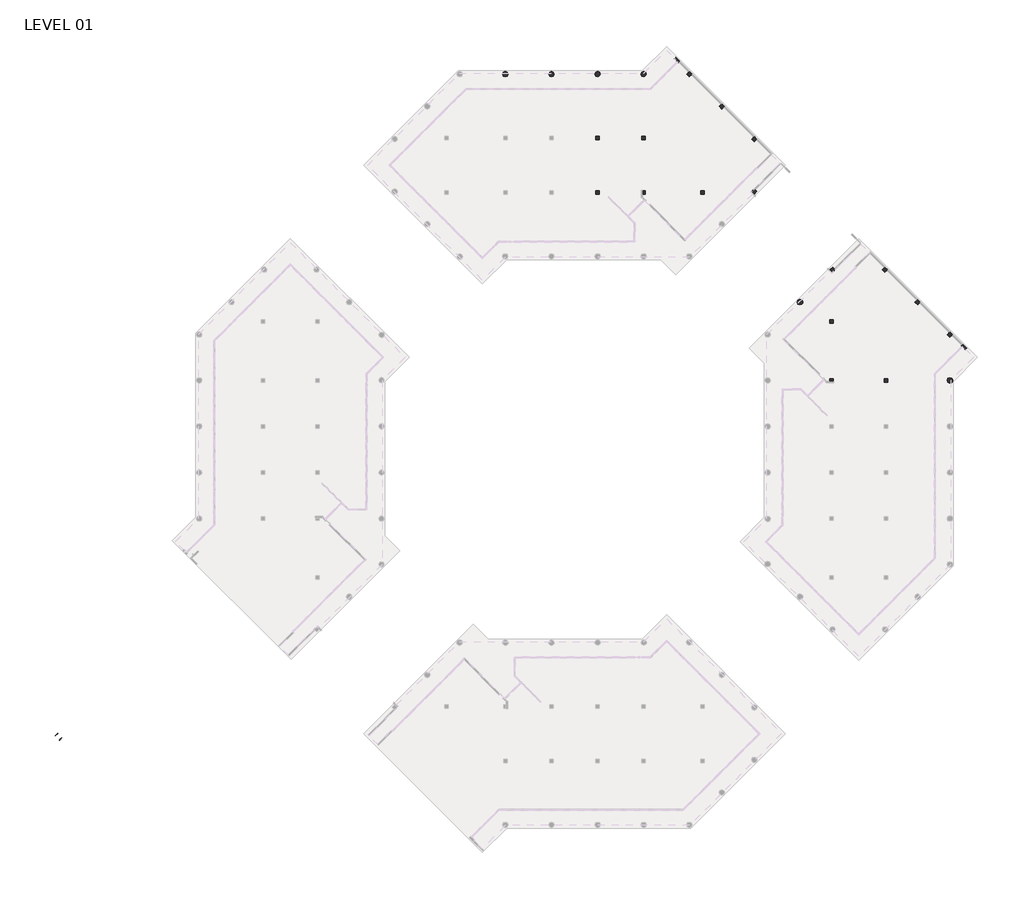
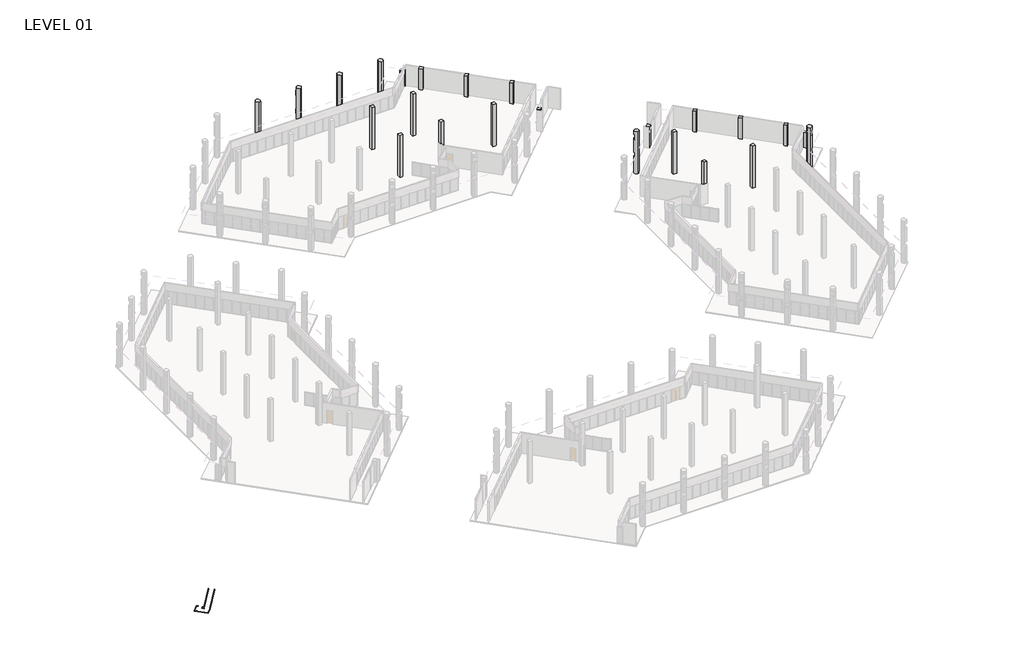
# One storey, part 24 of 24: 24 columns, 2 railings.
"""IFC4 building model written with IfcOpenShell, lengths in millimetres."""

from ifc_helpers import new_model, si_unit, frame, origin, origin_with_axes, place, context, project, spatial, polyline, circle_curve, outline, extrude, faceted_brep, transform, mapped, element, save
from ifc_brep_helpers import plane_surface, cylinder_surface, advanced_brep
from components import column_c64340cb, column_f8a5f9a6, railing_1_d00421eb, railing_1_545f83d4

model = new_model("IFC4")

# Units and contexts
model_context = context("Model", 3, world=origin())
ifc_project = project(units=[si_unit("LENGTHUNIT", "METRE", prefix="MILLI")], contexts=[model_context])

# Site, building, storey
site = spatial("IfcSite", under=ifc_project)
building = spatial("IfcBuilding", under=site)
storey = spatial("IfcBuildingStorey", under=building, Name="LEVEL 01", Elevation=0.0)

# Columns
placement = place(None, origin())
element("IfcColumn", 1, ObjectType="Rectangular Column : 1'2\"x3'-0\"", at=placement, inside=storey, context=model_context, shape_type="Brep", body=[
    faceted_brep([(94455.4916224, 74004.6765846, 0.0), (93808.9131817, 74651.2550253, 0.0), (94060.3603531, 74902.7021967, 0.0), (94706.9387938, 74256.123756, 0.0), (94455.4916224, 74004.6765846, 3048.0), (94013.9124677, 74446.2557393, 3048.0), (93870.2283698, 74589.9398372, 3048.0), (93808.9131817, 74651.2550253, 3048.0), (94706.9387938, 74256.123756, 3048.0), (94060.3603531, 74902.7021967, 3048.0)], [[[0, 1, 2, 3]], [[1, 0, 4, 5, 6, 7]], [[0, 3, 8, 4]], [[3, 2, 9, 8]], [[2, 1, 7, 9]], [[4, 8, 9, 7, 6, 5]]]),
])
element("IfcColumn", 2, ObjectType="Rectangular Column : 1'2\"x3'-0\"", at=placement, inside=storey, context=model_context, shape_type="Brep", body=[
    faceted_brep([(46959.2374368, 121500.9307702, 0.0), (46312.6589961, 122147.5092109, 0.0), (46564.1061675, 122398.9563823, 0.0), (47210.6846082, 121752.3779416, 0.0), (46959.2374368, 121500.9307702, 3048.0), (46897.9222487, 121562.2459583, 3048.0), (46754.2381508, 121705.9300562, 3048.0), (46312.6589961, 122147.5092109, 3048.0), (46564.1061675, 122398.9563823, 3048.0), (47210.6846082, 121752.3779416, 3048.0)], [[[0, 1, 2, 3]], [[1, 0, 4, 5, 6, 7]], [[2, 1, 7, 8]], [[3, 2, 8, 9]], [[0, 3, 9, 4]], [[8, 7, 6, 5, 4, 9]]]),
])
element("IfcColumn", 3, ObjectType="Rectangular Column : 24\" x 24\"", at=placement, inside=storey, context=model_context, shape_type="SweptSolid", body=[
    extrude(outline(polyline([(69252.7675885, 8280.4), (69252.7675885, 0.0), (68801.9175885, 0.0), (68801.9175885, 4013.2), (68643.1675885, 4013.2), (68643.1675885, 8280.4), (69252.7675885, 8280.4)])), frame((72027.0347164, 0.0, 0.0), z_axis=(1.0, 0.0, 0.0), x_axis=(0.0, 1.0, 0.0)), (0.0, 0.0, 1.0), 609.6),
])
element("IfcColumn", 4, ObjectType="Rectangular Column : 24\" x 24\"", at=placement, inside=storey, context=model_context, shape_type="SweptSolid", body=[
    extrude(outline(polyline([(91503.2324226, 76525.8834906), (91934.2847164, 76956.9357844), (92365.3370102, 76525.8834906), (91934.2847164, 76094.8311968), (91503.2324226, 76525.8834906)])), origin_with_axes(), (0.0, 0.0, 1.0), 4140.2),
])
element("IfcColumn", 5, ObjectType="Rectangular Column : 24\" x 24\"", at=placement, inside=storey, context=model_context, shape_type="SweptSolid", body=[
    extrude(outline(polyline([(86145.0153736, 81884.1005396), (86576.0676674, 82315.1528334), (87007.1199612, 81884.1005396), (86576.0676674, 81453.0482457), (86145.0153736, 81884.1005396)])), origin_with_axes(), (0.0, 0.0, 1.0), 4140.2),
])
element("IfcColumn", 6, ObjectType="Rectangular Column : 24\" x 24\"", at=placement, inside=storey, context=model_context, shape_type="Brep", body=[
    faceted_brep([(81188.0926674, 86841.0232457, 0.0), (80757.0403736, 87272.0755396, 0.0), (81080.329594, 87595.3647599, 0.0), (81188.0926674, 87703.1278334, 0.0), (81619.1449612, 87272.0755396, 0.0), (81188.0926674, 86841.0232457, 4140.2), (80757.0403736, 87272.0755396, 4140.2), (81619.1449612, 87272.0755396, 4140.2), (81188.0926674, 87703.1278334, 4089.4), (81188.0926674, 87703.1278334, 4140.2)], [[[0, 1, 2, 3, 4]], [[1, 0, 5, 6]], [[0, 4, 7, 5]], [[4, 3, 8, 9, 7]], [[1, 6, 9, 8, 3, 2]], [[6, 5, 7, 9]]]),
])
element("IfcColumn", 7, ObjectType="Rectangular Column : 24\" x 24\"", at=placement, inside=storey, context=model_context, shape_type="SweptSolid", body=[
    extrude(outline(polyline([(72080.5744716, 87272.0755396), (72511.6267654, 87703.1278334), (72942.6790592, 87272.0755396), (72511.6267654, 86841.0232457), (72080.5744716, 87272.0755396)])), origin_with_axes(), (0.0, 0.0, 1.0), 4140.2),
])
element("IfcColumn", 8, ObjectType="Rectangular Column : 24\" x 24\"", at=placement, inside=storey, context=model_context, shape_type="SweptSolid", body=[
    extrude(outline(polyline([(0.0, 41560.75), (8280.4, 41560.75), (8280.4, 40951.15), (4013.2, 40951.15), (4013.2, 41109.9), (0.0, 41109.9), (0.0, 41560.75)])), frame((0.0, 99719.0523049, 0.0), z_axis=(0.0, 1.0, 0.0), x_axis=(0.0, 0.0, 1.0)), (0.0, 0.0, 1.0), 609.6),
])
element("IfcColumn", 9, ObjectType="Rectangular Column : 24\" x 24\"", at=placement, inside=storey, context=model_context, shape_type="SweptSolid", body=[
    extrude(outline(polyline([(48833.8659021, 119195.2500111), (48402.8136083, 119626.3023049), (48833.8659021, 120057.3545987), (49264.9181959, 119626.3023049), (48833.8659021, 119195.2500111)])), origin_with_axes(), (0.0, 0.0, 1.0), 4140.2),
])
element("IfcColumn", 10, ObjectType="Rectangular Column : 24\" x 24\"", at=placement, inside=storey, context=model_context, shape_type="SweptSolid", body=[
    extrude(outline(polyline([(54192.082951, 113837.0329621), (53761.0306572, 114268.085256), (54192.082951, 114699.1375498), (54623.1352448, 114268.085256), (54192.082951, 113837.0329621)])), origin_with_axes(), (0.0, 0.0, 1.0), 4140.2),
])
element("IfcColumn", 11, ObjectType="Rectangular Column : 24\" x 24\"", at=placement, inside=storey, context=model_context, shape_type="Brep", body=[
    faceted_brep([(59580.057951, 108449.0579621, 0.0), (59149.0056572, 108880.110256, 0.0), (59580.057951, 109311.1625498, 0.0), (60011.1102448, 108880.110256, 0.0), (59903.3471714, 108772.3471825, 0.0), (59580.057951, 108449.0579621, 4140.2), (59149.0056572, 108880.110256, 4140.2), (59580.057951, 109311.1625498, 4140.2), (60011.1102448, 108880.110256, 4140.2), (60011.1102448, 108880.110256, 4089.4)], [[[0, 1, 2, 3, 4]], [[1, 0, 5, 6]], [[2, 1, 6, 7]], [[3, 2, 7, 8, 9]], [[5, 0, 4, 3, 9, 8]], [[6, 5, 8, 7]]]),
])
element("IfcColumn", 12, ObjectType="Rectangular Column : 24\" x 24\"", at=placement, inside=storey, context=model_context, shape_type="SweptSolid", body=[
    extrude(outline(polyline([(59580.057951, 99772.5920601), (59149.0056572, 100203.6443539), (59580.057951, 100634.6966477), (60011.1102448, 100203.6443539), (59580.057951, 99772.5920601)])), origin_with_axes(), (0.0, 0.0, 1.0), 4140.2),
])
column_shape = column_c64340cb(model_context)
element("IfcColumn", 13, ObjectType="Rectangular Column : 24\" x 24\"", at=placement, inside=storey, context=model_context, shape_type="MappedRepresentation", body=[
    mapped(column_shape, transform((33635.95, 109059.9023049, 0.0), x_axis=(-1.0, 0.0, 0.0), y_axis=(0.0, -1.0, 0.0), z_axis=(0.0, 0.0, 1.0))),
])
element("IfcColumn", 14, ObjectType="Rectangular Column : 24\" x 24\"", at=placement, inside=storey, context=model_context, shape_type="MappedRepresentation", body=[
    mapped(column_shape, transform((41255.95, 109059.9023049, 0.0), x_axis=(-1.0, 0.0, 0.0), y_axis=(0.0, -1.0, 0.0), z_axis=(0.0, 0.0, 1.0))),
])
element("IfcColumn", 15, ObjectType="Rectangular Column : 24\" x 24\"", at=placement, inside=storey, context=model_context, shape_type="MappedRepresentation", body=[
    mapped(column_shape, transform((51009.55, 100023.8523049, 0.0), x_axis=(-1.0, 0.0, 0.0), y_axis=(0.0, -1.0, 0.0), z_axis=(0.0, 0.0, 1.0))),
])
element("IfcColumn", 16, ObjectType="Rectangular Column : 24\" x 24\"", at=placement, inside=storey, context=model_context, shape_type="MappedRepresentation", body=[
    mapped(column_shape, transform((33635.95, 100023.8523049, 0.0), x_axis=(-1.0, 0.0, 0.0), y_axis=(0.0, -1.0, 0.0), z_axis=(0.0, 0.0, 1.0))),
])
column_2_shape = column_f8a5f9a6(model_context)
element("IfcColumn", 17, ObjectType="Rectangular Column : 24\" x 24\"", at=placement, inside=storey, context=model_context, shape_type="MappedRepresentation", body=[
    mapped(column_2_shape, transform((81367.8847164, 68947.9675885, 0.0), x_axis=(0.0, -1.0, 0.0), y_axis=(1.0, 0.0, 0.0), z_axis=(0.0, 0.0, 1.0))),
])
element("IfcColumn", 18, ObjectType="Rectangular Column : 24\" x 24\"", at=placement, inside=storey, context=model_context, shape_type="MappedRepresentation", body=[
    mapped(column_2_shape, transform((72331.8347164, 78701.5675885, 0.0), x_axis=(0.0, -1.0, 0.0), y_axis=(1.0, 0.0, 0.0), z_axis=(0.0, 0.0, 1.0))),
])
element("IfcColumn", 19, ObjectType="Round Column : 36\" Diameter", at=placement, inside=storey, context=model_context, shape_type="AdvancedBrep", body=[
    advanced_brep(
    [(91934.2847164, 69405.1675885, 0.0), (91934.2847164, 68490.7675885, 0.0), (91477.0847164, 68947.9675885, 0.0), (91934.2847164, 69405.1675885, 8280.4), (91934.2847164, 68490.7675885, 8280.4), (92391.4847164, 68947.9675885, 3225.8), (92086.6847164, 68516.9152947, 3225.8), (92086.6847164, 68516.9152947, 4140.2), (92391.4847164, 68947.9675885, 4140.2), (92332.4465602, 69172.6873833, 4140.2), (92332.4465602, 69172.6873833, 3225.8), (92086.6847164, 68516.9152947, 6731.0), (92086.6847164, 68516.9152947, 7721.6), (92391.4847164, 68947.9675885, 7721.6), (92332.4465602, 69172.6873833, 7721.6), (92332.4465602, 69172.6873833, 6731.0), (92391.4847164, 68947.9675885, 6731.0), (91477.0847164, 68947.9675885, 8280.4), (92086.6847164, 68926.9255396, 3225.8), (92086.6847164, 68926.9255396, 4140.2), (92086.6847164, 68926.9255396, 6731.0), (92086.6847164, 68926.9255396, 7721.6)],
    [
        (0, 1, circle_curve(frame((91934.2847164, 68947.9675885, 0.0), z_axis=(0.0, 0.0, -1.0), x_axis=(0.0, -1.0, 0.0)), 457.2)),
        (1, 2, circle_curve(frame((91934.2847164, 68947.9675885, 0.0), z_axis=(0.0, 0.0, -1.0), x_axis=(0.0, -1.0, 0.0)), 457.2)),
        (2, 0, circle_curve(frame((91934.2847164, 68947.9675885, 0.0), z_axis=(0.0, 0.0, -1.0), x_axis=(0.0, -1.0, 0.0)), 457.2)),
        (0, 3),
        (3, 4, circle_curve(frame((91934.2847164, 68947.9675885, 8280.4), z_axis=(0.0, 0.0, -1.0), x_axis=(0.0, -1.0, 0.0)), 457.2)),
        (4, 1),
        (5, 6, circle_curve(frame((91934.2847164, 68947.9675885, 3225.8), z_axis=(0.0, 0.0, -1.0), x_axis=(0.0, -1.0, 0.0)), 457.2)),
        (6, 7),
        (7, 8, circle_curve(frame((91934.2847164, 68947.9675885, 4140.2), z_axis=(0.0, 0.0, 1.0), x_axis=(0.0, -1.0, 0.0)), 457.2)),
        (8, 9, circle_curve(frame((91934.2847164, 68947.9675885, 4140.2), z_axis=(0.0, 0.0, 1.0), x_axis=(0.0, -1.0, 0.0)), 457.2)),
        (9, 10),
        (10, 5, circle_curve(frame((91934.2847164, 68947.9675885, 3225.8), z_axis=(0.0, 0.0, -1.0), x_axis=(0.0, -1.0, 0.0)), 457.2)),
        (11, 12),
        (12, 13, circle_curve(frame((91934.2847164, 68947.9675885, 7721.6), z_axis=(0.0, 0.0, 1.0), x_axis=(0.0, -1.0, 0.0)), 457.2)),
        (13, 14, circle_curve(frame((91934.2847164, 68947.9675885, 7721.6), z_axis=(0.0, 0.0, 1.0), x_axis=(0.0, -1.0, 0.0)), 457.2)),
        (14, 15),
        (15, 16, circle_curve(frame((91934.2847164, 68947.9675885, 6731.0), z_axis=(0.0, 0.0, -1.0), x_axis=(0.0, -1.0, 0.0)), 457.2)),
        (16, 11, circle_curve(frame((91934.2847164, 68947.9675885, 6731.0), z_axis=(0.0, 0.0, -1.0), x_axis=(0.0, -1.0, 0.0)), 457.2)),
        (2, 17),
        (17, 3, circle_curve(frame((91934.2847164, 68947.9675885, 8280.4), z_axis=(0.0, 0.0, -1.0), x_axis=(0.0, -1.0, 0.0)), 457.2)),
        (4, 17, circle_curve(frame((91934.2847164, 68947.9675885, 8280.4), z_axis=(0.0, 0.0, -1.0), x_axis=(0.0, -1.0, 0.0)), 457.2)),
        (18, 19),
        (19, 7),
        (6, 18),
        (10, 18),
        (19, 9),
        (20, 21),
        (21, 12),
        (11, 20),
        (15, 20),
        (21, 14),
    ],
    [
        plane_surface(frame((91934.2847164, 68490.7675885, 0.0), z_axis=(0.0, 0.0, -1.0), x_axis=(1.0, 0.0, 0.0))),
        cylinder_surface(frame((91934.2847164, 68947.9675885, 0.0), z_axis=(0.0, 0.0, 1.0), x_axis=(0.0, -1.0, 0.0)), 457.2),
        plane_surface(frame((91934.2847164, 68490.7675885, 8280.4), z_axis=(0.0, 0.0, 1.0), x_axis=(-1.0, 0.0, 0.0))),
        plane_surface(frame((92086.6847164, 38320.6732457, 3225.8), z_axis=(1.0, 0.0, 0.0), x_axis=(0.0, -1.0, 0.0))),
        plane_surface(frame((92391.4847164, 38383.7993926, 3225.8), z_axis=(0.0, 0.0, 1.0), x_axis=(-1.0, 0.0, 0.0))),
        plane_surface(frame((92391.4847164, 68863.7993926, 4140.2), z_axis=(0.0, 0.0, -1.0), x_axis=(-1.0, 0.0, 0.0))),
        plane_surface(frame((92175.9585695, 69016.1993926, 3225.8), z_axis=(0.7071067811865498, -0.7071067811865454, 0.0), x_axis=(-0.7071067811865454, -0.7071067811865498, 0.0))),
        plane_surface(frame((92086.6847164, 38320.6732457, 6731.0), z_axis=(1.0, 0.0, 0.0), x_axis=(0.0, -1.0, 0.0))),
        plane_surface(frame((92391.4847164, 38383.7993926, 6731.0), z_axis=(0.0, 0.0, 1.0), x_axis=(-1.0, 0.0, 0.0))),
        plane_surface(frame((92391.4847164, 68863.7993926, 7721.6), z_axis=(0.0, 0.0, -1.0), x_axis=(-1.0, 0.0, 0.0))),
        plane_surface(frame((92175.9585695, 69016.1993926, 6731.0), z_axis=(0.7071067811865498, -0.7071067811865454, 0.0), x_axis=(-0.7071067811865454, -0.7071067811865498, 0.0))),
    ],
    [
        (0, [[1, 2, 3]]),
        (1, [[-1, 4, 5, 6], [7, 8, 9, 10, 11, 12], [13, 14, 15, 16, 17, 18]]),
        (1, [[-3, 19, 20, -4]]),
        (1, [[-2, -6, 21, -19]]),
        (2, [[-5, -20, -21]]),
        (3, [[22, 23, -8, 24]]),
        (4, [[-7, -12, 25, -24]]),
        (5, [[-10, -9, -23, 26]]),
        (6, [[-22, -25, -11, -26]]),
        (7, [[27, 28, -13, 29]]),
        (8, [[-29, -18, -17, 30]]),
        (9, [[-28, 31, -15, -14]]),
        (10, [[-27, -30, -16, -31]]),
    ],
),
])
element("IfcColumn", 20, ObjectType="Round Column : 36\" Diameter", at=placement, inside=storey, context=model_context, shape_type="AdvancedBrep", body=[
    advanced_brep(
    [(67123.6517654, 82341.3005396, 0.0), (67123.6517654, 81426.9005396, 0.0), (66666.4517654, 81884.1005396, 0.0), (67123.6517654, 82341.3005396, 3225.8), (67320.6886919, 82296.663613, 3225.8), (67320.6886919, 82296.663613, 4140.2), (67123.6517654, 82341.3005396, 4140.2), (67123.6517654, 82341.3005396, 6731.0), (67320.6886919, 82296.663613, 6731.0), (67320.6886919, 82296.663613, 7721.6), (67123.6517654, 82341.3005396, 7721.6), (67123.6517654, 82341.3005396, 8280.4), (67123.6517654, 81426.9005396, 8280.4), (66666.4517654, 81884.1005396, 3225.8), (66800.362545, 82207.3897599, 3225.8), (66666.4517654, 81884.1005396, 8280.4), (66666.4517654, 81884.1005396, 7721.6), (66711.0886919, 81687.063613, 7721.6), (66711.0886919, 81687.063613, 6731.0), (66666.4517654, 81884.1005396, 6731.0), (66666.4517654, 81884.1005396, 4140.2), (66711.0886919, 81687.063613, 4140.2), (66711.0886919, 81687.063613, 3225.8), (66800.362545, 82207.3897599, 6731.0), (66800.362545, 82207.3897599, 7721.6), (66800.362545, 82207.3897599, 4140.2)],
    [
        (0, 1, circle_curve(frame((67123.6517654, 81884.1005396, 0.0), z_axis=(0.0, 0.0, -1.0), x_axis=(0.0, -1.0, 0.0)), 457.2)),
        (1, 2, circle_curve(frame((67123.6517654, 81884.1005396, 0.0), z_axis=(0.0, 0.0, -1.0), x_axis=(0.0, -1.0, 0.0)), 457.2)),
        (2, 0, circle_curve(frame((67123.6517654, 81884.1005396, 0.0), z_axis=(0.0, 0.0, -1.0), x_axis=(0.0, -1.0, 0.0)), 457.2)),
        (0, 3),
        (3, 4, circle_curve(frame((67123.6517654, 81884.1005396, 3225.8), z_axis=(0.0, 0.0, -1.0), x_axis=(0.0, -1.0, 0.0)), 457.2)),
        (4, 5),
        (5, 6, circle_curve(frame((67123.6517654, 81884.1005396, 4140.2), z_axis=(0.0, 0.0, 1.0), x_axis=(0.0, -1.0, 0.0)), 457.2)),
        (6, 7),
        (7, 8, circle_curve(frame((67123.6517654, 81884.1005396, 6731.0), z_axis=(0.0, 0.0, -1.0), x_axis=(0.0, -1.0, 0.0)), 457.2)),
        (8, 9),
        (9, 10, circle_curve(frame((67123.6517654, 81884.1005396, 7721.6), z_axis=(0.0, 0.0, 1.0), x_axis=(0.0, -1.0, 0.0)), 457.2)),
        (10, 11),
        (11, 12, circle_curve(frame((67123.6517654, 81884.1005396, 8280.4), z_axis=(0.0, 0.0, -1.0), x_axis=(0.0, -1.0, 0.0)), 457.2)),
        (12, 1),
        (2, 13),
        (13, 14, circle_curve(frame((67123.6517654, 81884.1005396, 3225.8), z_axis=(0.0, 0.0, -1.0), x_axis=(0.0, -1.0, 0.0)), 457.2)),
        (14, 3, circle_curve(frame((67123.6517654, 81884.1005396, 3225.8), z_axis=(0.0, 0.0, -1.0), x_axis=(0.0, -1.0, 0.0)), 457.2)),
        (12, 15, circle_curve(frame((67123.6517654, 81884.1005396, 8280.4), z_axis=(0.0, 0.0, -1.0), x_axis=(0.0, -1.0, 0.0)), 457.2)),
        (15, 16),
        (16, 17, circle_curve(frame((67123.6517654, 81884.1005396, 7721.6), z_axis=(0.0, 0.0, 1.0), x_axis=(0.0, -1.0, 0.0)), 457.2)),
        (17, 18),
        (18, 19, circle_curve(frame((67123.6517654, 81884.1005396, 6731.0), z_axis=(0.0, 0.0, -1.0), x_axis=(0.0, -1.0, 0.0)), 457.2)),
        (19, 20),
        (20, 21, circle_curve(frame((67123.6517654, 81884.1005396, 4140.2), z_axis=(0.0, 0.0, 1.0), x_axis=(0.0, -1.0, 0.0)), 457.2)),
        (21, 22),
        (22, 13, circle_curve(frame((67123.6517654, 81884.1005396, 3225.8), z_axis=(0.0, 0.0, -1.0), x_axis=(0.0, -1.0, 0.0)), 457.2)),
        (11, 15, circle_curve(frame((67123.6517654, 81884.1005396, 8280.4), z_axis=(0.0, 0.0, 1.0), x_axis=(0.0, -1.0, 0.0)), 457.2)),
        (8, 18),
        (17, 9),
        (7, 23, circle_curve(frame((67123.6517654, 81884.1005396, 6731.0), z_axis=(0.0, 0.0, 1.0), x_axis=(0.0, -1.0, 0.0)), 457.2)),
        (23, 19, circle_curve(frame((67123.6517654, 81884.1005396, 6731.0), z_axis=(0.0, 0.0, 1.0), x_axis=(0.0, -1.0, 0.0)), 457.2)),
        (16, 24, circle_curve(frame((67123.6517654, 81884.1005396, 7721.6), z_axis=(0.0, 0.0, -1.0), x_axis=(0.0, -1.0, 0.0)), 457.2)),
        (24, 10, circle_curve(frame((67123.6517654, 81884.1005396, 7721.6), z_axis=(0.0, 0.0, -1.0), x_axis=(0.0, -1.0, 0.0)), 457.2)),
        (4, 22),
        (21, 5),
        (20, 25, circle_curve(frame((67123.6517654, 81884.1005396, 4140.2), z_axis=(0.0, 0.0, -1.0), x_axis=(0.0, -1.0, 0.0)), 457.2)),
        (25, 6, circle_curve(frame((67123.6517654, 81884.1005396, 4140.2), z_axis=(0.0, 0.0, -1.0), x_axis=(0.0, -1.0, 0.0)), 457.2)),
    ],
    [
        plane_surface(frame((67123.6517654, 81426.9005396, 0.0), z_axis=(0.0, 0.0, -1.0), x_axis=(1.0, 0.0, 0.0))),
        cylinder_surface(frame((67123.6517654, 81884.1005396, 0.0), z_axis=(0.0, 0.0, 1.0), x_axis=(0.0, -1.0, 0.0)), 457.2),
        plane_surface(frame((67123.6517654, 81426.9005396, 8280.4), z_axis=(0.0, 0.0, 1.0), x_axis=(-1.0, 0.0, 0.0))),
        plane_surface(frame((76955.4438143, 91931.4187354, 6731.0), z_axis=(-0.7071067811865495, 0.7071067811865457, 0.0), x_axis=(0.7071067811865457, 0.7071067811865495, 0.0))),
        plane_surface(frame((76742.0966429, 92149.1238578, 6731.0), z_axis=(0.0, 0.0, 1.0000000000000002), x_axis=(0.7071067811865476, -0.7071067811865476, 0.0))),
        plane_surface(frame((61352.8716429, 76759.8988578, 7721.6), z_axis=(0.0, 0.0, -1.0000000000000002), x_axis=(0.7071067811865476, -0.7071067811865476, 0.0))),
        plane_surface(frame((65300.0829574, 80276.0578785, 3225.8), z_axis=(-0.7071067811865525, 0.7071067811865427, 0.0), x_axis=(0.7071067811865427, 0.7071067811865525, 0.0))),
        plane_surface(frame((71900.9693491, 87307.996564, 3225.8), z_axis=(0.0, 0.0, 1.0000000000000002), x_axis=(0.7071067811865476, -0.7071067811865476, 0.0))),
        plane_surface(frame((58963.5948066, 74370.6220215, 4140.2), z_axis=(0.0, 0.0, -1.0000000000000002), x_axis=(0.7071067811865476, -0.7071067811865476, 0.0))),
    ],
    [
        (0, [[1, 2, 3]]),
        (1, [[-1, 4, 5, 6, 7, 8, 9, 10, 11, 12, 13, 14]]),
        (1, [[-3, 15, 16, 17, -4]]),
        (1, [[-2, -14, 18, 19, 20, 21, 22, 23, 24, 25, 26, -15]]),
        (2, [[-13, 27, -18]]),
        (3, [[28, -21, 29, -10]]),
        (4, [[-9, 30, 31, -22, -28]]),
        (5, [[-11, -29, -20, 32, 33]]),
        (1, [[-27, -12, -33, -32, -19]]),
        (6, [[34, -25, 35, -6]]),
        (7, [[-34, -5, -17, -16, -26]]),
        (8, [[-35, -24, 36, 37, -7]]),
        (1, [[-30, -8, -37, -36, -23, -31]]),
    ],
),
])
element("IfcColumn", 21, ObjectType="Round Column : 36\" Diameter", at=placement, inside=storey, context=model_context, shape_type="AdvancedBrep", body=[
    advanced_brep(
    [(17938.75, 119626.3023049, 0.0), (18853.15, 119626.3023049, 0.0), (18395.95, 119169.1023049, 0.0), (17938.75, 119626.3023049, 8280.4), (18853.15, 119626.3023049, 8280.4), (17964.8977062, 119778.7023049, 4140.2), (17964.8977062, 119778.7023049, 3225.8), (18395.95, 120083.5023049, 3225.8), (18827.0022938, 119778.7023049, 3225.8), (18827.0022938, 119778.7023049, 4140.2), (18395.95, 120083.5023049, 4140.2), (17964.8977062, 119778.7023049, 7721.6), (17964.8977062, 119778.7023049, 6731.0), (18395.95, 120083.5023049, 6731.0), (18827.0022938, 119778.7023049, 6731.0), (18827.0022938, 119778.7023049, 7721.6), (18395.95, 120083.5023049, 7721.6), (18395.95, 119169.1023049, 8280.4)],
    [
        (0, 1, circle_curve(frame((18395.95, 119626.3023049, 0.0), z_axis=(0.0, 0.0, -1.0), x_axis=(-1.0, 0.0, 0.0)), 457.2)),
        (1, 2, circle_curve(frame((18395.95, 119626.3023049, 0.0), z_axis=(0.0, 0.0, -1.0), x_axis=(-1.0, 0.0, 0.0)), 457.2)),
        (2, 0, circle_curve(frame((18395.95, 119626.3023049, 0.0), z_axis=(0.0, 0.0, -1.0), x_axis=(-1.0, 0.0, 0.0)), 457.2)),
        (0, 3),
        (3, 4, circle_curve(frame((18395.95, 119626.3023049, 8280.4), z_axis=(0.0, 0.0, -1.0), x_axis=(-1.0, 0.0, 0.0)), 457.2)),
        (4, 1),
        (5, 6),
        (6, 7, circle_curve(frame((18395.95, 119626.3023049, 3225.8), z_axis=(0.0, 0.0, -1.0), x_axis=(-1.0, 0.0, 0.0)), 457.2)),
        (7, 8, circle_curve(frame((18395.95, 119626.3023049, 3225.8), z_axis=(0.0, 0.0, -1.0), x_axis=(-1.0, 0.0, 0.0)), 457.2)),
        (8, 9),
        (9, 10, circle_curve(frame((18395.95, 119626.3023049, 4140.2), z_axis=(0.0, 0.0, 1.0), x_axis=(-1.0, 0.0, 0.0)), 457.2)),
        (10, 5, circle_curve(frame((18395.95, 119626.3023049, 4140.2), z_axis=(0.0, 0.0, 1.0), x_axis=(-1.0, 0.0, 0.0)), 457.2)),
        (11, 12),
        (12, 13, circle_curve(frame((18395.95, 119626.3023049, 6731.0), z_axis=(0.0, 0.0, -1.0), x_axis=(-1.0, 0.0, 0.0)), 457.2)),
        (13, 14, circle_curve(frame((18395.95, 119626.3023049, 6731.0), z_axis=(0.0, 0.0, -1.0), x_axis=(-1.0, 0.0, 0.0)), 457.2)),
        (14, 15),
        (15, 16, circle_curve(frame((18395.95, 119626.3023049, 7721.6), z_axis=(0.0, 0.0, 1.0), x_axis=(-1.0, 0.0, 0.0)), 457.2)),
        (16, 11, circle_curve(frame((18395.95, 119626.3023049, 7721.6), z_axis=(0.0, 0.0, 1.0), x_axis=(-1.0, 0.0, 0.0)), 457.2)),
        (4, 17, circle_curve(frame((18395.95, 119626.3023049, 8280.4), z_axis=(0.0, 0.0, -1.0), x_axis=(-1.0, 0.0, 0.0)), 457.2)),
        (17, 2),
        (17, 3, circle_curve(frame((18395.95, 119626.3023049, 8280.4), z_axis=(0.0, 0.0, -1.0), x_axis=(-1.0, 0.0, 0.0)), 457.2)),
        (5, 9),
        (8, 6),
        (11, 15),
        (14, 12),
    ],
    [
        plane_surface(frame((17938.75, 119626.3023049, 0.0), z_axis=(0.0, 0.0, -1.0), x_axis=(0.0, 1.0, 0.0))),
        cylinder_surface(frame((18395.95, 119626.3023049, 0.0), z_axis=(0.0, 0.0, 1.0), x_axis=(-1.0, 0.0, 0.0)), 457.2),
        plane_surface(frame((17938.75, 119626.3023049, 8280.4), z_axis=(0.0, 0.0, 1.0), x_axis=(0.0, -1.0, 0.0))),
        plane_surface(frame((10628.6556572, 119778.7023049, 3225.8), z_axis=(0.0, 1.0, 0.0), x_axis=(1.0, 0.0, 0.0))),
        plane_surface(frame((10691.7818041, 119778.7023049, 3225.8), z_axis=(0.0, 0.0, 1.0), x_axis=(0.0, 1.0, 0.0))),
        plane_surface(frame((41171.7818041, 119778.7023049, 4140.2), z_axis=(0.0, 0.0, -1.0), x_axis=(0.0, 1.0, 0.0))),
        plane_surface(frame((10628.6556572, 119778.7023049, 6731.0), z_axis=(0.0, 1.0, 0.0), x_axis=(1.0, 0.0, 0.0))),
        plane_surface(frame((10691.7818041, 119778.7023049, 6731.0), z_axis=(0.0, 0.0, 1.0), x_axis=(0.0, 1.0, 0.0))),
        plane_surface(frame((41171.7818041, 119778.7023049, 7721.6), z_axis=(0.0, 0.0, -1.0), x_axis=(0.0, 1.0, 0.0))),
    ],
    [
        (0, [[1, 2, 3]]),
        (1, [[-1, 4, 5, 6], [7, 8, 9, 10, 11, 12], [13, 14, 15, 16, 17, 18]]),
        (1, [[-2, -6, 19, 20]]),
        (1, [[-3, -20, 21, -4]]),
        (2, [[-5, -21, -19]]),
        (3, [[-7, 22, -10, 23]]),
        (4, [[-9, -8, -23]]),
        (5, [[-12, -11, -22]]),
        (6, [[24, -16, 25, -13]]),
        (7, [[-25, -15, -14]]),
        (8, [[-24, -18, -17]]),
    ],
),
])
element("IfcColumn", 22, ObjectType="Round Column : 36\" Diameter", at=placement, inside=storey, context=model_context, shape_type="AdvancedBrep", body=[
    advanced_brep(
    [(25558.75, 119626.3023049, 0.0), (26473.15, 119626.3023049, 0.0), (26015.95, 119169.1023049, 0.0), (25558.75, 119626.3023049, 8280.4), (26473.15, 119626.3023049, 8280.4), (25584.8977062, 119778.7023049, 4140.2), (25584.8977062, 119778.7023049, 3225.8), (26015.95, 120083.5023049, 3225.8), (26447.0022938, 119778.7023049, 3225.8), (26447.0022938, 119778.7023049, 4140.2), (26015.95, 120083.5023049, 4140.2), (25584.8977062, 119778.7023049, 7721.6), (25584.8977062, 119778.7023049, 6731.0), (26015.95, 120083.5023049, 6731.0), (26447.0022938, 119778.7023049, 6731.0), (26447.0022938, 119778.7023049, 7721.6), (26015.95, 120083.5023049, 7721.6), (26015.95, 119169.1023049, 8280.4)],
    [
        (0, 1, circle_curve(frame((26015.95, 119626.3023049, 0.0), z_axis=(0.0, 0.0, -1.0), x_axis=(-1.0, 0.0, 0.0)), 457.2)),
        (1, 2, circle_curve(frame((26015.95, 119626.3023049, 0.0), z_axis=(0.0, 0.0, -1.0), x_axis=(-1.0, 0.0, 0.0)), 457.2)),
        (2, 0, circle_curve(frame((26015.95, 119626.3023049, 0.0), z_axis=(0.0, 0.0, -1.0), x_axis=(-1.0, 0.0, 0.0)), 457.2)),
        (0, 3),
        (3, 4, circle_curve(frame((26015.95, 119626.3023049, 8280.4), z_axis=(0.0, 0.0, -1.0), x_axis=(-1.0, 0.0, 0.0)), 457.2)),
        (4, 1),
        (5, 6),
        (6, 7, circle_curve(frame((26015.95, 119626.3023049, 3225.8), z_axis=(0.0, 0.0, -1.0), x_axis=(-1.0, 0.0, 0.0)), 457.2)),
        (7, 8, circle_curve(frame((26015.95, 119626.3023049, 3225.8), z_axis=(0.0, 0.0, -1.0), x_axis=(-1.0, 0.0, 0.0)), 457.2)),
        (8, 9),
        (9, 10, circle_curve(frame((26015.95, 119626.3023049, 4140.2), z_axis=(0.0, 0.0, 1.0), x_axis=(-1.0, 0.0, 0.0)), 457.2)),
        (10, 5, circle_curve(frame((26015.95, 119626.3023049, 4140.2), z_axis=(0.0, 0.0, 1.0), x_axis=(-1.0, 0.0, 0.0)), 457.2)),
        (11, 12),
        (12, 13, circle_curve(frame((26015.95, 119626.3023049, 6731.0), z_axis=(0.0, 0.0, -1.0), x_axis=(-1.0, 0.0, 0.0)), 457.2)),
        (13, 14, circle_curve(frame((26015.95, 119626.3023049, 6731.0), z_axis=(0.0, 0.0, -1.0), x_axis=(-1.0, 0.0, 0.0)), 457.2)),
        (14, 15),
        (15, 16, circle_curve(frame((26015.95, 119626.3023049, 7721.6), z_axis=(0.0, 0.0, 1.0), x_axis=(-1.0, 0.0, 0.0)), 457.2)),
        (16, 11, circle_curve(frame((26015.95, 119626.3023049, 7721.6), z_axis=(0.0, 0.0, 1.0), x_axis=(-1.0, 0.0, 0.0)), 457.2)),
        (4, 17, circle_curve(frame((26015.95, 119626.3023049, 8280.4), z_axis=(0.0, 0.0, -1.0), x_axis=(-1.0, 0.0, 0.0)), 457.2)),
        (17, 2),
        (17, 3, circle_curve(frame((26015.95, 119626.3023049, 8280.4), z_axis=(0.0, 0.0, -1.0), x_axis=(-1.0, 0.0, 0.0)), 457.2)),
        (5, 9),
        (8, 6),
        (11, 15),
        (14, 12),
    ],
    [
        plane_surface(frame((25558.75, 119626.3023049, 0.0), z_axis=(0.0, 0.0, -1.0), x_axis=(0.0, 1.0, 0.0))),
        cylinder_surface(frame((26015.95, 119626.3023049, 0.0), z_axis=(0.0, 0.0, 1.0), x_axis=(-1.0, 0.0, 0.0)), 457.2),
        plane_surface(frame((25558.75, 119626.3023049, 8280.4), z_axis=(0.0, 0.0, 1.0), x_axis=(0.0, -1.0, 0.0))),
        plane_surface(frame((10628.6556572, 119778.7023049, 3225.8), z_axis=(0.0, 1.0, 0.0), x_axis=(1.0, 0.0, 0.0))),
        plane_surface(frame((10691.7818041, 119778.7023049, 3225.8), z_axis=(0.0, 0.0, 1.0), x_axis=(0.0, 1.0, 0.0))),
        plane_surface(frame((41171.7818041, 119778.7023049, 4140.2), z_axis=(0.0, 0.0, -1.0), x_axis=(0.0, 1.0, 0.0))),
        plane_surface(frame((10628.6556572, 119778.7023049, 6731.0), z_axis=(0.0, 1.0, 0.0), x_axis=(1.0, 0.0, 0.0))),
        plane_surface(frame((10691.7818041, 119778.7023049, 6731.0), z_axis=(0.0, 0.0, 1.0), x_axis=(0.0, 1.0, 0.0))),
        plane_surface(frame((41171.7818041, 119778.7023049, 7721.6), z_axis=(0.0, 0.0, -1.0), x_axis=(0.0, 1.0, 0.0))),
    ],
    [
        (0, [[1, 2, 3]]),
        (1, [[-1, 4, 5, 6], [7, 8, 9, 10, 11, 12], [13, 14, 15, 16, 17, 18]]),
        (1, [[-2, -6, 19, 20]]),
        (1, [[-3, -20, 21, -4]]),
        (2, [[-5, -21, -19]]),
        (3, [[-7, 22, -10, 23]]),
        (4, [[-9, -8, -23]]),
        (5, [[-12, -11, -22]]),
        (6, [[24, -16, 25, -13]]),
        (7, [[-25, -15, -14]]),
        (8, [[-24, -18, -17]]),
    ],
),
])
element("IfcColumn", 23, ObjectType="Round Column : 36\" Diameter", at=placement, inside=storey, context=model_context, shape_type="AdvancedBrep", body=[
    advanced_brep(
    [(40798.75, 119626.3023049, 0.0), (41713.15, 119626.3023049, 0.0), (41255.95, 119169.1023049, 0.0), (40798.75, 119626.3023049, 8280.4), (41713.15, 119626.3023049, 8280.4), (40824.8977062, 119778.7023049, 4140.2), (40824.8977062, 119778.7023049, 3225.8), (41255.95, 120083.5023049, 3225.8), (41480.6697948, 120024.4641487, 3225.8), (41480.6697948, 120024.4641487, 4140.2), (41255.95, 120083.5023049, 4140.2), (40824.8977062, 119778.7023049, 7721.6), (40824.8977062, 119778.7023049, 6731.0), (41255.95, 120083.5023049, 6731.0), (41480.6697948, 120024.4641487, 6731.0), (41480.6697948, 120024.4641487, 7721.6), (41255.95, 120083.5023049, 7721.6), (41255.95, 119169.1023049, 8280.4), (41234.907951, 119778.7023049, 4140.2), (41234.907951, 119778.7023049, 3225.8), (41234.907951, 119778.7023049, 7721.6), (41234.907951, 119778.7023049, 6731.0)],
    [
        (0, 1, circle_curve(frame((41255.95, 119626.3023049, 0.0), z_axis=(0.0, 0.0, -1.0), x_axis=(-1.0, 0.0, 0.0)), 457.2)),
        (1, 2, circle_curve(frame((41255.95, 119626.3023049, 0.0), z_axis=(0.0, 0.0, -1.0), x_axis=(-1.0, 0.0, 0.0)), 457.2)),
        (2, 0, circle_curve(frame((41255.95, 119626.3023049, 0.0), z_axis=(0.0, 0.0, -1.0), x_axis=(-1.0, 0.0, 0.0)), 457.2)),
        (0, 3),
        (3, 4, circle_curve(frame((41255.95, 119626.3023049, 8280.4), z_axis=(0.0, 0.0, -1.0), x_axis=(-1.0, 0.0, 0.0)), 457.2)),
        (4, 1),
        (5, 6),
        (6, 7, circle_curve(frame((41255.95, 119626.3023049, 3225.8), z_axis=(0.0, 0.0, -1.0), x_axis=(-1.0, 0.0, 0.0)), 457.2)),
        (7, 8, circle_curve(frame((41255.95, 119626.3023049, 3225.8), z_axis=(0.0, 0.0, -1.0), x_axis=(-1.0, 0.0, 0.0)), 457.2)),
        (8, 9),
        (9, 10, circle_curve(frame((41255.95, 119626.3023049, 4140.2), z_axis=(0.0, 0.0, 1.0), x_axis=(-1.0, 0.0, 0.0)), 457.2)),
        (10, 5, circle_curve(frame((41255.95, 119626.3023049, 4140.2), z_axis=(0.0, 0.0, 1.0), x_axis=(-1.0, 0.0, 0.0)), 457.2)),
        (11, 12),
        (12, 13, circle_curve(frame((41255.95, 119626.3023049, 6731.0), z_axis=(0.0, 0.0, -1.0), x_axis=(-1.0, 0.0, 0.0)), 457.2)),
        (13, 14, circle_curve(frame((41255.95, 119626.3023049, 6731.0), z_axis=(0.0, 0.0, -1.0), x_axis=(-1.0, 0.0, 0.0)), 457.2)),
        (14, 15),
        (15, 16, circle_curve(frame((41255.95, 119626.3023049, 7721.6), z_axis=(0.0, 0.0, 1.0), x_axis=(-1.0, 0.0, 0.0)), 457.2)),
        (16, 11, circle_curve(frame((41255.95, 119626.3023049, 7721.6), z_axis=(0.0, 0.0, 1.0), x_axis=(-1.0, 0.0, 0.0)), 457.2)),
        (4, 17, circle_curve(frame((41255.95, 119626.3023049, 8280.4), z_axis=(0.0, 0.0, -1.0), x_axis=(-1.0, 0.0, 0.0)), 457.2)),
        (17, 2),
        (17, 3, circle_curve(frame((41255.95, 119626.3023049, 8280.4), z_axis=(0.0, 0.0, -1.0), x_axis=(-1.0, 0.0, 0.0)), 457.2)),
        (5, 18),
        (18, 19),
        (19, 6),
        (19, 8),
        (9, 18),
        (20, 21),
        (21, 12),
        (11, 20),
        (21, 14),
        (15, 20),
    ],
    [
        plane_surface(frame((40798.75, 119626.3023049, 0.0), z_axis=(0.0, 0.0, -1.0), x_axis=(0.0, 1.0, 0.0))),
        cylinder_surface(frame((41255.95, 119626.3023049, 0.0), z_axis=(0.0, 0.0, 1.0), x_axis=(-1.0, 0.0, 0.0)), 457.2),
        plane_surface(frame((40798.75, 119626.3023049, 8280.4), z_axis=(0.0, 0.0, 1.0), x_axis=(0.0, -1.0, 0.0))),
        plane_surface(frame((10628.6556572, 119778.7023049, 3225.8), z_axis=(0.0, 1.0, 0.0), x_axis=(1.0, 0.0, 0.0))),
        plane_surface(frame((10691.7818041, 119778.7023049, 3225.8), z_axis=(0.0, 0.0, 1.0), x_axis=(0.0, 1.0, 0.0))),
        plane_surface(frame((41171.7818041, 119778.7023049, 4140.2), z_axis=(0.0, 0.0, -1.0), x_axis=(0.0, 1.0, 0.0))),
        plane_surface(frame((41324.1818041, 119867.976158, 3225.8), z_axis=(-0.7071067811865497, 0.7071067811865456, 0.0), x_axis=(0.7071067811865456, 0.7071067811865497, 0.0))),
        plane_surface(frame((10628.6556572, 119778.7023049, 6731.0), z_axis=(0.0, 1.0, 0.0), x_axis=(1.0, 0.0, 0.0))),
        plane_surface(frame((10691.7818041, 119778.7023049, 6731.0), z_axis=(0.0, 0.0, 1.0), x_axis=(0.0, 1.0, 0.0))),
        plane_surface(frame((41171.7818041, 119778.7023049, 7721.6), z_axis=(0.0, 0.0, -1.0), x_axis=(0.0, 1.0, 0.0))),
        plane_surface(frame((41324.1818041, 119867.976158, 6731.0), z_axis=(-0.7071067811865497, 0.7071067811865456, 0.0), x_axis=(0.7071067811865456, 0.7071067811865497, 0.0))),
    ],
    [
        (0, [[1, 2, 3]]),
        (1, [[-1, 4, 5, 6], [7, 8, 9, 10, 11, 12], [13, 14, 15, 16, 17, 18]]),
        (1, [[-2, -6, 19, 20]]),
        (1, [[-3, -20, 21, -4]]),
        (2, [[-5, -21, -19]]),
        (3, [[22, 23, 24, -7]]),
        (4, [[-24, 25, -9, -8]]),
        (5, [[-22, -12, -11, 26]]),
        (6, [[-23, -26, -10, -25]]),
        (7, [[27, 28, -13, 29]]),
        (8, [[-28, 30, -15, -14]]),
        (9, [[-29, -18, -17, 31]]),
        (10, [[-27, -31, -16, -30]]),
    ],
),
])
element("IfcColumn", 24, ObjectType="Round Column : 36\" Diameter", at=placement, inside=storey, context=model_context, shape_type="AdvancedBrep", body=[
    advanced_brep(
    [(33178.75, 119626.3023049, 0.0), (34093.15, 119626.3023049, 0.0), (33635.95, 119169.1023049, 0.0), (33178.75, 119626.3023049, 8280.4), (34093.15, 119626.3023049, 8280.4), (33204.8977062, 119778.7023049, 4140.2), (33204.8977062, 119778.7023049, 3225.8), (33635.95, 120083.5023049, 3225.8), (34067.0022938, 119778.7023049, 3225.8), (34067.0022938, 119778.7023049, 4140.2), (33635.95, 120083.5023049, 4140.2), (33204.8977062, 119778.7023049, 7721.6), (33204.8977062, 119778.7023049, 6731.0), (33635.95, 120083.5023049, 6731.0), (34067.0022938, 119778.7023049, 6731.0), (34067.0022938, 119778.7023049, 7721.6), (33635.95, 120083.5023049, 7721.6), (33635.95, 119169.1023049, 8280.4)],
    [
        (0, 1, circle_curve(frame((33635.95, 119626.3023049, 0.0), z_axis=(0.0, 0.0, -1.0), x_axis=(-1.0, 0.0, 0.0)), 457.2)),
        (1, 2, circle_curve(frame((33635.95, 119626.3023049, 0.0), z_axis=(0.0, 0.0, -1.0), x_axis=(-1.0, 0.0, 0.0)), 457.2)),
        (2, 0, circle_curve(frame((33635.95, 119626.3023049, 0.0), z_axis=(0.0, 0.0, -1.0), x_axis=(-1.0, 0.0, 0.0)), 457.2)),
        (0, 3),
        (3, 4, circle_curve(frame((33635.95, 119626.3023049, 8280.4), z_axis=(0.0, 0.0, -1.0), x_axis=(-1.0, 0.0, 0.0)), 457.2)),
        (4, 1),
        (5, 6),
        (6, 7, circle_curve(frame((33635.95, 119626.3023049, 3225.8), z_axis=(0.0, 0.0, -1.0), x_axis=(-1.0, 0.0, 0.0)), 457.2)),
        (7, 8, circle_curve(frame((33635.95, 119626.3023049, 3225.8), z_axis=(0.0, 0.0, -1.0), x_axis=(-1.0, 0.0, 0.0)), 457.2)),
        (8, 9),
        (9, 10, circle_curve(frame((33635.95, 119626.3023049, 4140.2), z_axis=(0.0, 0.0, 1.0), x_axis=(-1.0, 0.0, 0.0)), 457.2)),
        (10, 5, circle_curve(frame((33635.95, 119626.3023049, 4140.2), z_axis=(0.0, 0.0, 1.0), x_axis=(-1.0, 0.0, 0.0)), 457.2)),
        (11, 12),
        (12, 13, circle_curve(frame((33635.95, 119626.3023049, 6731.0), z_axis=(0.0, 0.0, -1.0), x_axis=(-1.0, 0.0, 0.0)), 457.2)),
        (13, 14, circle_curve(frame((33635.95, 119626.3023049, 6731.0), z_axis=(0.0, 0.0, -1.0), x_axis=(-1.0, 0.0, 0.0)), 457.2)),
        (14, 15),
        (15, 16, circle_curve(frame((33635.95, 119626.3023049, 7721.6), z_axis=(0.0, 0.0, 1.0), x_axis=(-1.0, 0.0, 0.0)), 457.2)),
        (16, 11, circle_curve(frame((33635.95, 119626.3023049, 7721.6), z_axis=(0.0, 0.0, 1.0), x_axis=(-1.0, 0.0, 0.0)), 457.2)),
        (4, 17, circle_curve(frame((33635.95, 119626.3023049, 8280.4), z_axis=(0.0, 0.0, -1.0), x_axis=(-1.0, 0.0, 0.0)), 457.2)),
        (17, 2),
        (17, 3, circle_curve(frame((33635.95, 119626.3023049, 8280.4), z_axis=(0.0, 0.0, -1.0), x_axis=(-1.0, 0.0, 0.0)), 457.2)),
        (5, 9),
        (8, 6),
        (11, 15),
        (14, 12),
    ],
    [
        plane_surface(frame((33178.75, 119626.3023049, 0.0), z_axis=(0.0, 0.0, -1.0), x_axis=(0.0, 1.0, 0.0))),
        cylinder_surface(frame((33635.95, 119626.3023049, 0.0), z_axis=(0.0, 0.0, 1.0), x_axis=(-1.0, 0.0, 0.0)), 457.2),
        plane_surface(frame((33178.75, 119626.3023049, 8280.4), z_axis=(0.0, 0.0, 1.0), x_axis=(0.0, -1.0, 0.0))),
        plane_surface(frame((10628.6556572, 119778.7023049, 3225.8), z_axis=(0.0, 1.0, 0.0), x_axis=(1.0, 0.0, 0.0))),
        plane_surface(frame((10691.7818041, 119778.7023049, 3225.8), z_axis=(0.0, 0.0, 1.0), x_axis=(0.0, 1.0, 0.0))),
        plane_surface(frame((41171.7818041, 119778.7023049, 4140.2), z_axis=(0.0, 0.0, -1.0), x_axis=(0.0, 1.0, 0.0))),
        plane_surface(frame((10628.6556572, 119778.7023049, 6731.0), z_axis=(0.0, 1.0, 0.0), x_axis=(1.0, 0.0, 0.0))),
        plane_surface(frame((10691.7818041, 119778.7023049, 6731.0), z_axis=(0.0, 0.0, 1.0), x_axis=(0.0, 1.0, 0.0))),
        plane_surface(frame((41171.7818041, 119778.7023049, 7721.6), z_axis=(0.0, 0.0, -1.0), x_axis=(0.0, 1.0, 0.0))),
    ],
    [
        (0, [[1, 2, 3]]),
        (1, [[-1, 4, 5, 6], [7, 8, 9, 10, 11, 12], [13, 14, 15, 16, 17, 18]]),
        (1, [[-2, -6, 19, 20]]),
        (1, [[-3, -20, 21, -4]]),
        (2, [[-5, -21, -19]]),
        (3, [[-7, 22, -10, 23]]),
        (4, [[-9, -8, -23]]),
        (5, [[-12, -11, -22]]),
        (6, [[24, -16, 25, -13]]),
        (7, [[-25, -15, -14]]),
        (8, [[-24, -18, -17]]),
    ],
),
])

# Railings
railing_1_shape = railing_1_d00421eb(model_context)
element("IfcRailing", 25, ObjectType="Railing 1", at=placement, inside=storey, context=model_context, shape_type="MappedRepresentation", body=[
    mapped(railing_1_shape, transform((0.0, 0.0, 0.0), x_axis=(1.0, 0.0, 0.0), y_axis=(0.0, 1.0, 0.0), z_axis=(0.0, 0.0, 1.0))),
])
railing_1_2_shape = railing_1_545f83d4(model_context)
element("IfcRailing", 26, ObjectType="Railing 1", at=placement, inside=storey, context=model_context, shape_type="MappedRepresentation", body=[
    mapped(railing_1_2_shape, transform((0.0, 0.0, 0.0), x_axis=(1.0, 0.0, 0.0), y_axis=(0.0, 1.0, 0.0), z_axis=(0.0, 0.0, 1.0))),
])

save(model, "model.ifc")
